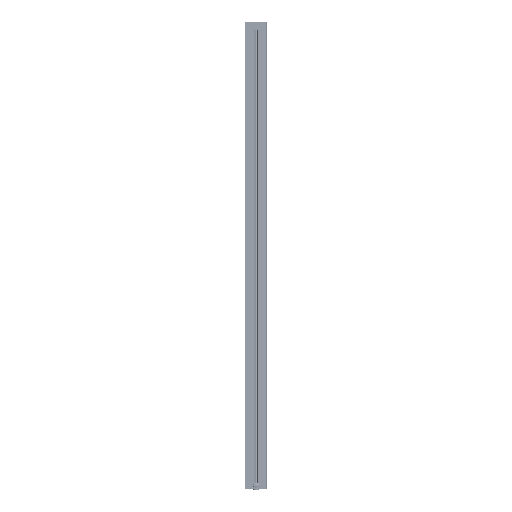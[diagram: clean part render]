
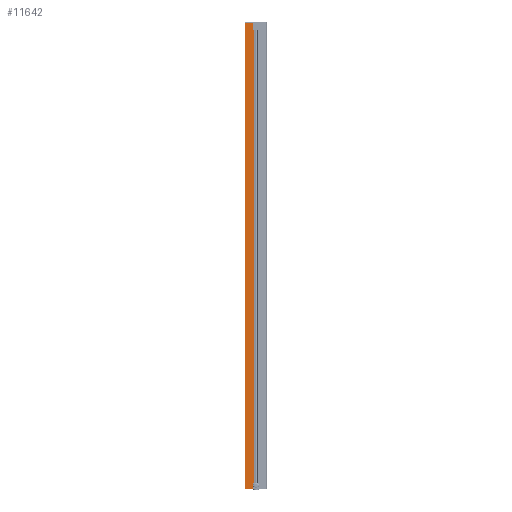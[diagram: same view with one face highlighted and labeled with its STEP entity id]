
A CAD part, left-side view. The second image highlights one B-rep face of the part: STEP entity #11642.
In plain terms, the highlighted planar face has unit normal (-1, 0, 0).
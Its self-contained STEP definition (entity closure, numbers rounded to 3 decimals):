
#1038 = EDGE_CURVE ( 'NONE', #14542, #23417, #24805, .T. ) ;
#1494 = VERTEX_POINT ( 'NONE', #39339 ) ;
#5110 = EDGE_LOOP ( 'NONE', ( #15152, #26612, #12208, #39532, #17520, #8111, #28547, #26308 ) ) ;
#5317 = EDGE_CURVE ( 'NONE', #34848, #29871, #33640, .T. ) ;
#5805 = VERTEX_POINT ( 'NONE', #25502 ) ;
#6127 = LINE ( 'NONE', #15209, #36206 ) ;
#6312 = PLANE ( 'NONE',  #8222 ) ;
#6632 = CARTESIAN_POINT ( 'NONE',  ( -16., 8.776, 987.3 ) ) ;
#6950 = CARTESIAN_POINT ( 'NONE',  ( -16., 8.487, 1017. ) ) ;
#8059 = CARTESIAN_POINT ( 'NONE',  ( -16., 13.85, -1017. ) ) ;
#8111 = ORIENTED_EDGE ( 'NONE', *, *, #31064, .F. ) ;
#8222 = AXIS2_PLACEMENT_3D ( 'NONE', #19226, #32117, #28949 ) ;
#8454 = LINE ( 'NONE', #33415, #29532 ) ;
#9698 = DIRECTION ( 'NONE',  ( 0., -1., 0. ) ) ;
#11565 = CARTESIAN_POINT ( 'NONE',  ( -16., 13.85, -987.3 ) ) ;
#11642 = ADVANCED_FACE ( 'NONE', ( #35264 ), #6312, .F. ) ;
#11976 = LINE ( 'NONE', #11565, #12103 ) ;
#12103 = VECTOR ( 'NONE', #37745, 1000. ) ;
#12208 = ORIENTED_EDGE ( 'NONE', *, *, #21174, .T. ) ;
#12253 = DIRECTION ( 'NONE',  ( 0., -1., 0. ) ) ;
#14542 = VERTEX_POINT ( 'NONE', #25711 ) ;
#14896 = VECTOR ( 'NONE', #23938, 1000. ) ;
#15152 = ORIENTED_EDGE ( 'NONE', *, *, #5317, .T. ) ;
#15209 = CARTESIAN_POINT ( 'NONE',  ( -16., 13.85, 987.3 ) ) ;
#16546 = VECTOR ( 'NONE', #38235, 1000. ) ;
#17214 = CARTESIAN_POINT ( 'NONE',  ( -16., 13.85, 987.3 ) ) ;
#17520 = ORIENTED_EDGE ( 'NONE', *, *, #1038, .F. ) ;
#18487 = CARTESIAN_POINT ( 'NONE',  ( -16., 13.85, -1016.9 ) ) ;
#19226 = CARTESIAN_POINT ( 'NONE',  ( -16., 8.487, 1017. ) ) ;
#19729 = EDGE_CURVE ( 'NONE', #37847, #34848, #32845, .T. ) ;
#20747 = DIRECTION ( 'NONE',  ( 0., 0., -1. ) ) ;
#21052 = EDGE_CURVE ( 'NONE', #23417, #25132, #6127, .T. ) ;
#21174 = EDGE_CURVE ( 'NONE', #1494, #25132, #37596, .T. ) ;
#21686 = VECTOR ( 'NONE', #9698, 1000. ) ;
#22760 = CARTESIAN_POINT ( 'NONE',  ( -16., 46.5, -1016.9 ) ) ;
#22917 = CARTESIAN_POINT ( 'NONE',  ( -16., 13.85, -987.3 ) ) ;
#23417 = VERTEX_POINT ( 'NONE', #17214 ) ;
#23938 = DIRECTION ( 'NONE',  ( 0., 0., 1. ) ) ;
#24805 = LINE ( 'NONE', #41276, #40301 ) ;
#25132 = VERTEX_POINT ( 'NONE', #6632 ) ;
#25502 = CARTESIAN_POINT ( 'NONE',  ( -16., 46.5, 1017. ) ) ;
#25711 = CARTESIAN_POINT ( 'NONE',  ( -16., 13.85, 1017. ) ) ;
#26308 = ORIENTED_EDGE ( 'NONE', *, *, #19729, .T. ) ;
#26612 = ORIENTED_EDGE ( 'NONE', *, *, #29434, .T. ) ;
#28547 = ORIENTED_EDGE ( 'NONE', *, *, #40186, .T. ) ;
#28949 = DIRECTION ( 'NONE',  ( 0., 1., 0. ) ) ;
#29434 = EDGE_CURVE ( 'NONE', #29871, #1494, #11976, .T. ) ;
#29532 = VECTOR ( 'NONE', #20747, 1000. ) ;
#29688 = CARTESIAN_POINT ( 'NONE',  ( -16., 8.487, -1016.9 ) ) ;
#29871 = VERTEX_POINT ( 'NONE', #22917 ) ;
#31064 = EDGE_CURVE ( 'NONE', #5805, #14542, #32741, .T. ) ;
#32117 = DIRECTION ( 'NONE',  ( 1., 0., 0. ) ) ;
#32741 = LINE ( 'NONE', #6950, #21686 ) ;
#32845 = LINE ( 'NONE', #29688, #36176 ) ;
#33415 = CARTESIAN_POINT ( 'NONE',  ( -16., 46.5, 1017. ) ) ;
#33640 = LINE ( 'NONE', #8059, #14896 ) ;
#34848 = VERTEX_POINT ( 'NONE', #18487 ) ;
#34870 = CARTESIAN_POINT ( 'NONE',  ( -16., 8.776, 1017. ) ) ;
#35264 = FACE_OUTER_BOUND ( 'NONE', #5110, .T. ) ;
#36176 = VECTOR ( 'NONE', #37653, 1000. ) ;
#36206 = VECTOR ( 'NONE', #12253, 1000. ) ;
#36208 = DIRECTION ( 'NONE',  ( 0., 0., -1. ) ) ;
#37596 = LINE ( 'NONE', #34870, #16546 ) ;
#37653 = DIRECTION ( 'NONE',  ( 0., -1., 0. ) ) ;
#37745 = DIRECTION ( 'NONE',  ( 0., -1., 0. ) ) ;
#37847 = VERTEX_POINT ( 'NONE', #22760 ) ;
#38235 = DIRECTION ( 'NONE',  ( 0., 0., 1. ) ) ;
#39339 = CARTESIAN_POINT ( 'NONE',  ( -16., 8.776, -987.3 ) ) ;
#39532 = ORIENTED_EDGE ( 'NONE', *, *, #21052, .F. ) ;
#40186 = EDGE_CURVE ( 'NONE', #5805, #37847, #8454, .T. ) ;
#40301 = VECTOR ( 'NONE', #36208, 1000. ) ;
#41276 = CARTESIAN_POINT ( 'NONE',  ( -16., 13.85, 1017. ) ) ;
